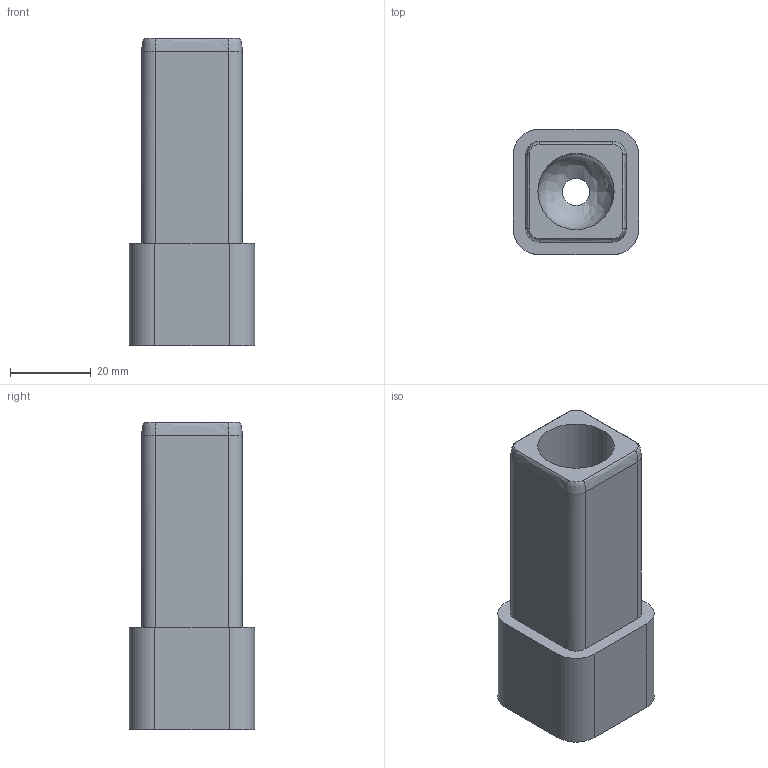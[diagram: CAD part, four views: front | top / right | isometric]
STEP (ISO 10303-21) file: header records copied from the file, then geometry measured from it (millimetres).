
FILE_DESCRIPTION (( 'STEP AP203' ), '1' );
FILE_NAME ('FDPCK-MCS1-END-THRD.STEP', '2019-09-11T19:13:42', ( 'ydmin' ), ( '' ), 'SwSTEP 2.0', 'SolidWorks 2017', '' );
FILE_SCHEMA (( 'CONFIG_CONTROL_DESIGN' ));
Length unit declared in the file: inch
Products named in the file (1): FDPCK-MCS1-END-THRD
Bounding box: 31.11 x 31.11 x 76.2 mm (x, y, z)
Volume: 40326.5 mm3; surface area: 12687.5 mm2
Topology: 1 solids, 1 shells, 32 faces, 76 edges, 48 vertices
Faces by surface type: cylinder 12, plane 11, bspline 9
Entity records: 1186 total; most frequent: CARTESIAN_POINT 420, ORIENTED_EDGE 152, DIRECTION 128, EDGE_CURVE 76, VERTEX_POINT 48, AXIS2_PLACEMENT_3D 44, LINE 40, VECTOR 40
